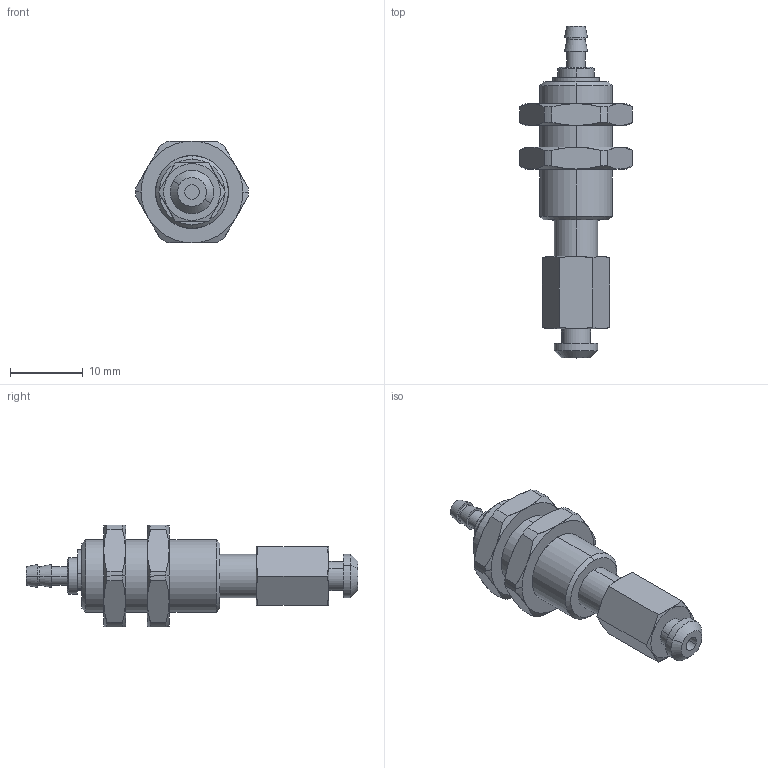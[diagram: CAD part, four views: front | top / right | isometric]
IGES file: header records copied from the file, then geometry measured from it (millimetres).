
Start section: 3D InterOp IGES (Version 26 1 0), Spatial Corp. Copyright (c) 1999-2007.
Global section: file name: schmalz_10_01_02_01335_1sz48yoa38sk3211qpx11oi25.igs; native system: Spatial Corp.; preprocessor: 3D InterOp ACIS/IGES; author: TraceParts; organization: TraceParts S.A.; date: 20180925.080708; units: millimetre
Bounding box: 15.5 x 45.7 x 14 mm (x, y, z)
Surface area: 1843.2 mm2 (no closed solid volume)
Topology: 0 solids, 0 shells, 145 faces, 684 edges, 684 vertices
Faces by surface type: revolution 106, extrusion 39
